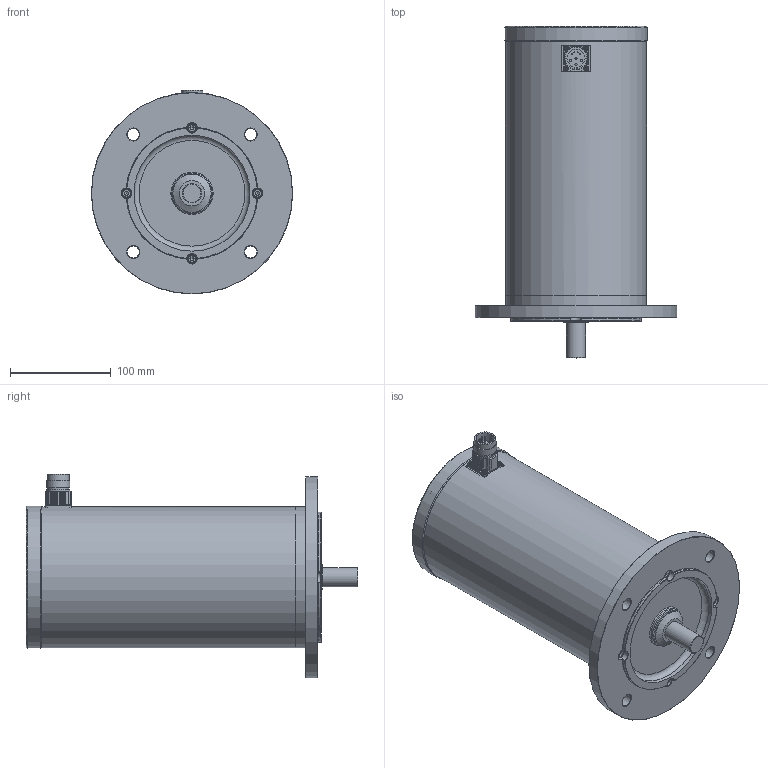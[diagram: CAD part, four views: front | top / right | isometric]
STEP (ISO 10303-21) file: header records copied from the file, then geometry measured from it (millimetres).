
FILE_DESCRIPTION(/* description */ (''),/* implementation_level */ '2;1');
FILE_NAME(/* name */ 'ksa_6x16e',/* time_stamp */ '2007-03-13T15:25:30+01:00',/* author */ (''),/* organization */ (''),/* preprocessor_version */ 'ST-DEVELOPER v8',/* originating_system */ 'UNIGRAPHICS SOLUTIONS - UNIGRAPHICS 18.0',/* authorisation */ '');
FILE_SCHEMA (('AUTOMOTIVE_DESIGN { 1 2 10303 214 0 1 1 1 }'));
Length unit declared in the file: millimetre
Products named in the file (10): din912-m5x20_A; iso1580-m2.5x6_A; 06331301_0; DIN3760_org_A20x32x7_0; 014260_0; 116156_0; Rotor_SA 64.. E_0; 116155_0; Gehaeuse SA 64.. E_0; KSA648_E_0
Assembly tree (19 placements, depth 2):
  KSA648_E_0
    Gehaeuse SA 64.. E_0
    116155_0
    Rotor_SA 64.. E_0
    116156_0
    014260_0
    DIN3760_org_A20x32x7_0
    06331301_0
    iso1580-m2.5x6_A  x4
    din912-m5x20_A  x8
Bounding box: 200 x 329.5 x 202.5 mm (x, y, z)
Volume: 2317321.2 mm3; surface area: 378425.9 mm2
Topology: 19 solids, 19 shells, 499 faces, 1159 edges, 728 vertices
Faces by surface type: plane 219, cylinder 160, cone 77, torus 35, sphere 8
Full cylindrical faces by diameter (mm): 1 x4, 1.948 x4, 2 x4, 2.5 x4, 2.7 x4, 4 x8, 5 x8, 5.5 x8, 8.5 x8, 10 x8, 12 x4, 18 x1, 18.52 x1, 18.9 x1, 19 x1, 20 x4, 20.3 x1, 21 x2, 21.5 x1, 23 x2, 26 x1, 29 x1, 32 x2, 38 x1, 40 x3, 47 x2, 115 x3, 121 x3, 140 x2, 142 x1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
Entity records: 8557 total; most frequent: CARTESIAN_POINT 1619, DIRECTION 1518, ORIENTED_EDGE 1090, AXIS2_PLACEMENT_3D 696, EDGE_CURVE 545, EDGE_LOOP 514, VERTEX_POINT 424, CIRCLE 367
